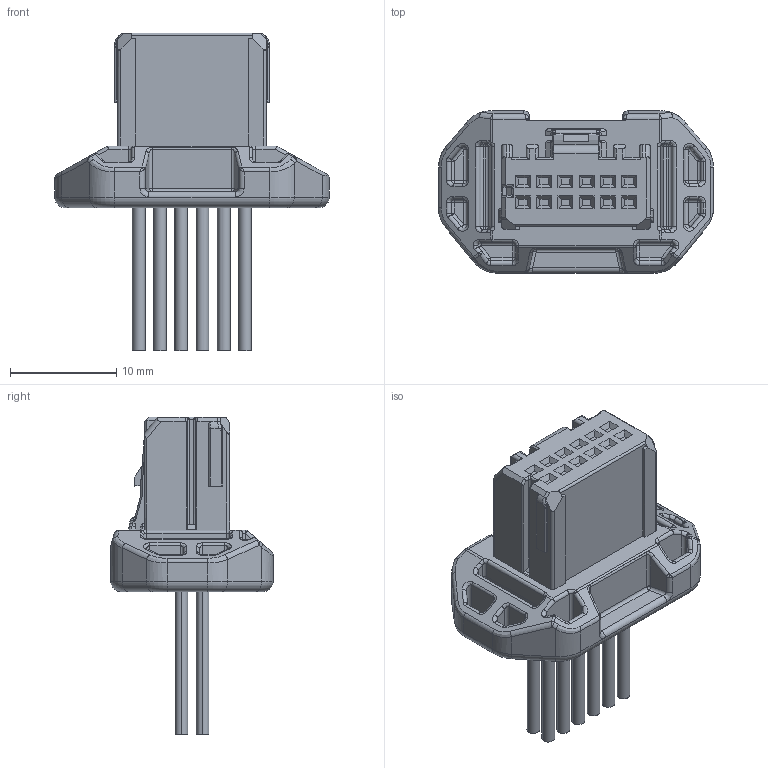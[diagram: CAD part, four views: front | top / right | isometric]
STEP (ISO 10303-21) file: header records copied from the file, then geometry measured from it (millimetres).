
FILE_DESCRIPTION (( 'STEP AP203' ), '1' );
FILE_NAME ('ISH 12P FEMALE CONNECTOR with REAR COVER.STEP', '2018-08-20T12:09:23', ( '' ), ( '' ), 'SwSTEP 2.0', 'SolidWorks 2017', '' );
FILE_SCHEMA (( 'CONFIG_CONTROL_DESIGN' ));
Length unit declared in the file: millimetre
Products named in the file (2): Part3^ISH 12P FEMALE CONNECTOR; ISH 12P FEMALE CONNECTOR with REAR COVER
Assembly tree (1 placements, depth 2):
  ISH 12P FEMALE CONNECTOR with REAR COVER
    Part3^ISH 12P FEMALE CONNECTOR
Bounding box: 25.9 x 15.3 x 29.95 mm (x, y, z)
Volume: 2894.9 mm3; surface area: 2500.6 mm2
Topology: 1 solids, 1 shells, 622 faces, 1513 edges, 882 vertices
Faces by surface type: cylinder 253, plane 222, bspline 72, sphere 45, torus 28, cone 2
Entity records: 18914 total; most frequent: CARTESIAN_POINT 5160, ORIENTED_EDGE 2938, DIRECTION 2756, EDGE_CURVE 1469, AXIS2_PLACEMENT_3D 984, VERTEX_POINT 878, VECTOR 788, LINE 788
